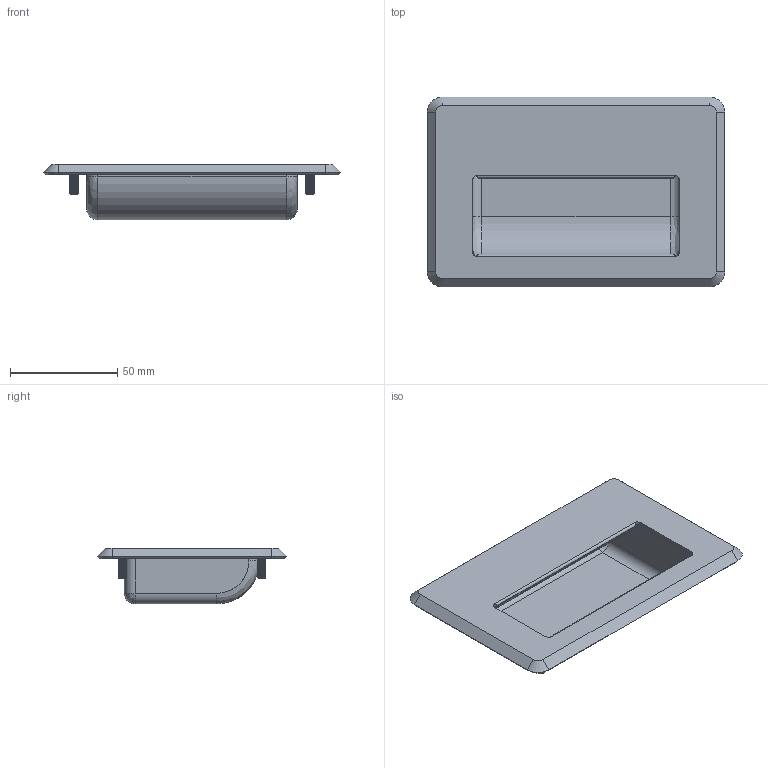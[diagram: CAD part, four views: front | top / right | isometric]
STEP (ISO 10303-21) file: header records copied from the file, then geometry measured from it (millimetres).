
FILE_DESCRIPTION (( 'STEP AP203' ), '1' );
FILE_NAME ('DPH6499S.STEP', '2019-07-04T08:57:12', ( '' ), ( '' ), 'SwSTEP 2.0', 'SolidWorks 2012', '' );
FILE_SCHEMA (( 'CONFIG_CONTROL_DESIGN' ));
Length unit declared in the file: millimetre
Products named in the file (1): DPH6499S
Bounding box: 138.5 x 88.5 x 26 mm (x, y, z)
Surface area: 50111.4 mm2 (no closed solid volume)
Topology: 0 solids, 62 shells, 469 faces, 1235 edges, 744 vertices
Faces by surface type: cylinder 213, cone 152, plane 72, bspline 32
Entity records: 14726 total; most frequent: CARTESIAN_POINT 3170, DIRECTION 2688, ORIENTED_EDGE 2048, EDGE_CURVE 1207, AXIS2_PLACEMENT_3D 1051, VERTEX_POINT 744, CIRCLE 613, LINE 586
